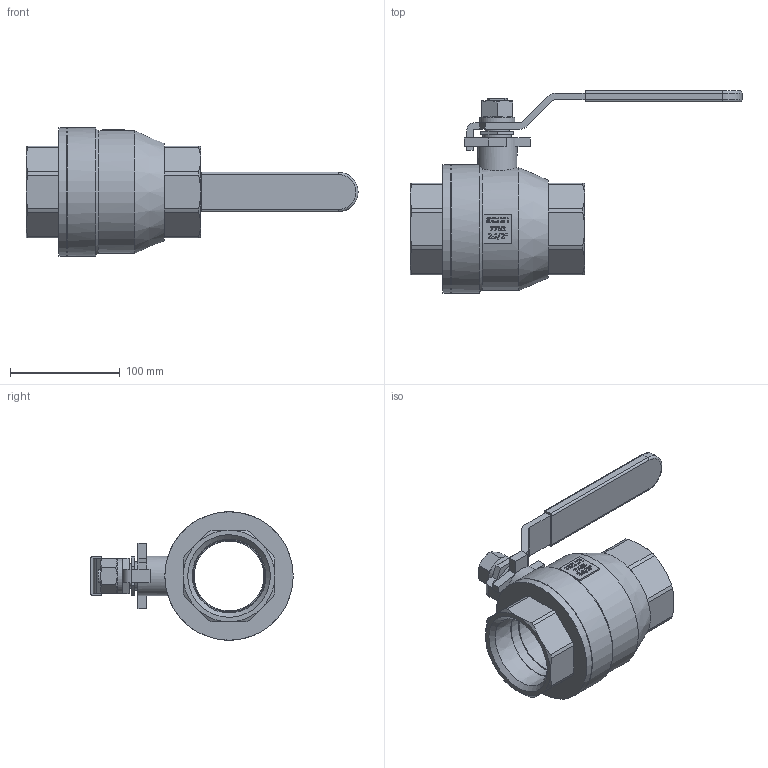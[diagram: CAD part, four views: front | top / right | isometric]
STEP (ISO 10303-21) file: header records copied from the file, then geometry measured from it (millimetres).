
FILE_DESCRIPTION(/* description */ ('Eriks item no: 12427457'),/* implementation_level */ '2;1');
FILE_NAME(/* name */ '7752-DN65-FB-1000PSI-BSPP.stp',/* time_stamp */ '2024-02-16T16:36:34+01:00',/* author */ ('roger.thijssen'),/* organization */ (''),/* preprocessor_version */ 'ST-DEVELOPER v19.2',/* originating_system */ 'Autodesk Inventor 2024',/* authorisation */ '');
FILE_SCHEMA (('AUTOMOTIVE_DESIGN { 1 0 10303 214 3 1 1 }'));
Length unit declared in the file: millimetre
Products named in the file (1): Ball valve, 7752-DN65-FB-1000PSI-BSPP
Bounding box: 302.5 x 184.5 x 117 mm (x, y, z)
Volume: 887058.3 mm3; surface area: 123303.9 mm2
Topology: 1 solids, 1 shells, 1016 faces, 2769 edges, 1824 vertices
Faces by surface type: plane 826, bspline 81, cylinder 71, cone 36, torus 2
Full cylindrical faces by diameter (mm): 22 x1, 26 x1, 32 x1, 36 x1, 63.5 x1, 65.481 x2, 112 x1, 117 x2
Entity records: 33338 total; most frequent: CARTESIAN_POINT 7093, ORIENTED_EDGE 5538, DIRECTION 4619, EDGE_CURVE 2769, LINE 2345, VECTOR 2345, VERTEX_POINT 1824, AXIS2_PLACEMENT_3D 1137
